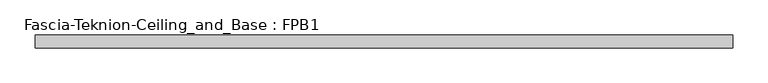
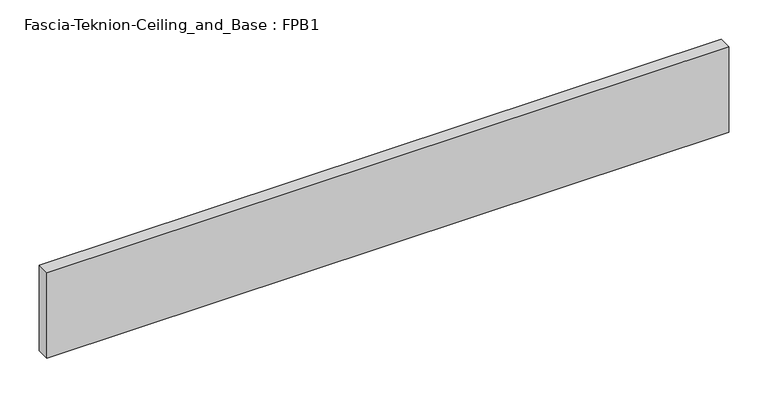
"""IFC4 building model written with IfcOpenShell, lengths in millimetres: proxy geometry, Fascia-Teknion-Ceiling_and_Base : FPB1."""

from ifc_helpers import new_model, si_unit, origin, origin_with_axes, place, context, project, spatial, polyline, outline, extrude, source, transform, mapped, element, save


def fascia_teknion_ceiling_and_base_fpb1_c4170f9c(model_context):
    return source(origin(), model_context, "Body", "SweptSolid", [
        extrude(outline(polyline([(498.4198344, 0.0), (498.4198344, -19.05), (-498.4198344, -19.05), (-498.4198344, 0.0), (498.4198344, 0.0)])), origin_with_axes(), (0.0, 0.0, 1.0), 132.08),
    ])


if __name__ == "__main__":
    model = new_model("IFC4")
    model_context = context("Model", 3, world=origin())
    ifc_project = project(units=[si_unit("LENGTHUNIT", "METRE", prefix="MILLI")], contexts=[model_context])
    site = spatial("IfcSite", under=ifc_project)
    building = spatial("IfcBuilding", under=site)
    placement = place(None, origin())
    fascia_teknion_ceiling_and_base_fpb1_shape = fascia_teknion_ceiling_and_base_fpb1_c4170f9c(model_context)
    element("IfcBuildingElementProxy", 1, Name="Fascia-Teknion-Ceiling_and_Base : FPB1", ObjectType="Fascia-Teknion-Ceiling_and_Base : FPB1", at=placement, inside=building, context=model_context, shape_type="MappedRepresentation", body=[
        mapped(fascia_teknion_ceiling_and_base_fpb1_shape, transform((0.0, 0.0, 0.0), x_axis=(1.0, 0.0, 0.0), y_axis=(0.0, 1.0, 0.0), z_axis=(0.0, 0.0, 1.0))),
    ])
    save(model, "model.ifc")
